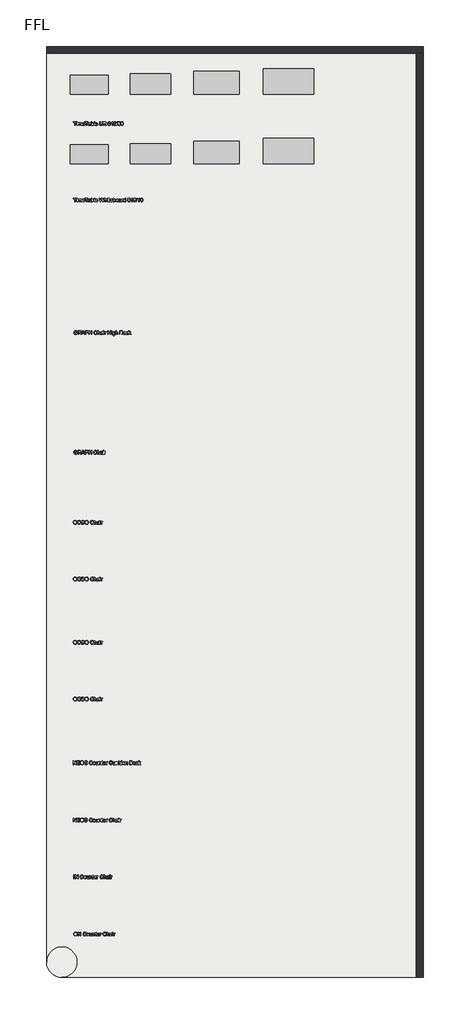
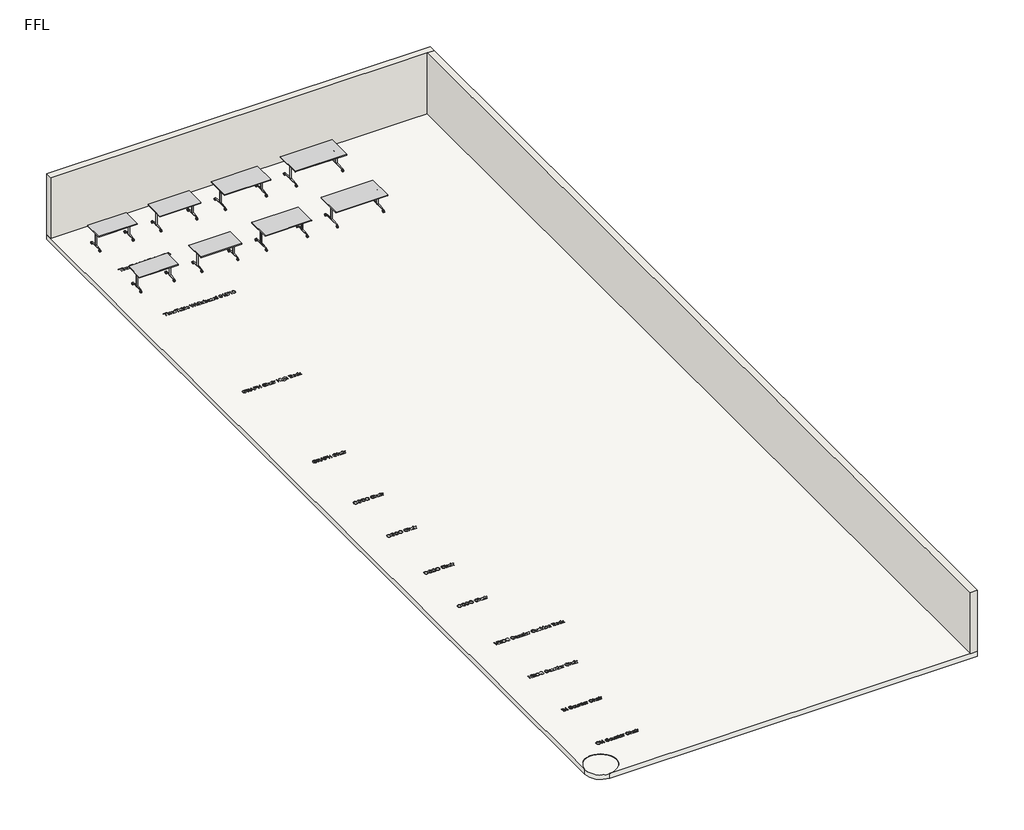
# One storey, part 1 of 5: 8 furniture elements, 2 proxies, 2 walls, 1 slab.
"""IFC4 building model written with IfcOpenShell, lengths in millimetres."""

from ifc_helpers import new_model, si_unit, frame, origin, origin_with_axes, place, context, project, spatial, polyline, circle_curve, outline, extrude, faceted_brep, transform, mapped, element, save
from ifc_brep_helpers import plane_surface, cylinder_surface, revolved_surface, advanced_brep
from components import furniture_0f136f00, furniture_efb72d9c, furniture_45383b6d, furniture_21161f99, furniture_9defe6de, furniture_b4830623, furniture_c1721f13, furniture_87d375f2, furniture_e5408bf0, furniture_d98f3108, furniture_42c79fa8, furniture_ac27c87f

model = new_model("IFC4")

# Units and contexts
model_context = context("Model", 3, world=origin())
ifc_project = project(units=[si_unit("LENGTHUNIT", "METRE", prefix="MILLI")], contexts=[model_context])

# Site, building, storey
site = spatial("IfcSite", under=ifc_project)
building = spatial("IfcBuilding", under=site)
storey = spatial("IfcBuildingStorey", under=building, Name="FFL", Elevation=0.0)

# Proxies
placement = place(None, origin())
element("IfcBuildingElementProxy", 1, Name="150mm Arial", ObjectType="150mm Arial", at=placement, inside=storey, context=model_context, shape_type="SweptSolid", body=[
    extrude(outline(polyline([(-19187.8255677, 6794.8567607), (-19182.9036927, 6827.5160155), (-19168.1380677, 6852.2245491), (-19145.5929955, 6867.7744289), (-19117.3327792, 6872.9577222), (-19097.960784, 6870.523828), (-19080.5899907, 6863.2221453), (-19066.1669138, 6851.5664963), (-19055.6380677, 6836.070703), (-19049.2017696, 6817.4829626), (-19047.0563369, 6796.5514722), (-19049.3144499, 6775.3405347), (-19056.0887888, 6756.4913761), (-19067.0052552, 6740.9685395), (-19081.6897503, 6729.7365684), (-19098.9118056, 6722.9216645), (-19117.4409523, 6720.6500299), (-19137.1104234, 6723.1605467), (-19154.5803753, 6730.6920972), (-19168.9673946, 6742.5640924), (-19179.3880677, 6758.0959434), (-19185.7161927, 6775.9670371), (-19187.8255677, 6794.8567607)]), holes=[polyline([(-19169.3640292, 6794.6764722), (-19165.6726229, 6771.5725059), (-19154.5984042, 6753.9673376), (-19137.953272, 6742.8255107), (-19117.5491253, 6739.1115684), (-19096.8475027, 6742.8615684), (-19080.1753273, 6754.1115684), (-19069.1822383, 6772.257602), (-19065.5178753, 6796.695703), (-19067.086385, 6813.038852), (-19071.7919138, 6827.164453), (-19079.5127672, 6838.7164362), (-19090.1272503, 6847.3387318), (-19102.9322383, 6852.7068208), (-19117.2246061, 6854.4961838), (-19137.0833802, 6851.0481669), (-19153.9673946, 6840.7041164), (-19165.5148705, 6822.3011717), (-19169.3640292, 6794.6764722)])]), origin_with_axes(), (0.0, 0.0, 1.0), 5.0),
    extrude(outline(polyline([(-19021.6717215, 6722.9577222), (-19021.6717215, 6870.6500299), (-19001.9121061, 6870.6500299), (-18924.7486446, 6753.6428184), (-18924.7486446, 6870.6500299), (-18906.2871061, 6870.6500299), (-18906.2871061, 6722.9577222), (-18926.0467215, 6722.9577222), (-19003.210183, 6840.0009914), (-19003.210183, 6722.9577222), (-19021.6717215, 6722.9577222)])), origin_with_axes(), (0.0, 0.0, 1.0), 5.0),
    extrude(outline(polyline([(-18712.4409523, 6775.4577222), (-18693.9794138, 6770.6981068), (-18702.4980436, 6749.1851862), (-18715.866433, 6733.4685395), (-18733.4265292, 6723.8546573), (-18754.5202792, 6720.6500299), (-18775.9340412, 6723.0749097), (-18792.9397503, 6730.3495491), (-18805.9746061, 6742.2215443), (-18815.475808, 6758.4384914), (-18821.2765893, 6777.5039963), (-18823.210183, 6797.9216645), (-18821.0241854, 6819.4571213), (-18814.4661927, 6838.0538761), (-18803.8787527, 6853.1214842), (-18789.6044138, 6864.0695011), (-18772.6753273, 6870.7356669), (-18754.1236446, 6872.9577222), (-18733.8817576, 6870.0821213), (-18717.1464811, 6861.4553184), (-18704.4406518, 6847.6091645), (-18696.2871061, 6829.0755107), (-18714.7486446, 6824.6764722), (-18721.148885, 6838.1395131), (-18729.8928753, 6847.3747895), (-18741.0887888, 6852.7158352), (-18754.8447984, 6854.4961838), (-18770.7011686, 6852.5220251), (-18783.72701, 6846.5995491), (-18793.6113249, 6837.3507511), (-18800.0431157, 6825.3976261), (-18804.7486446, 6797.9577222), (-18799.1777311, 6766.1548376), (-18792.0563369, 6754.2783352), (-18781.8339811, 6745.836328), (-18769.5788729, 6740.7927583), (-18756.3592215, 6739.1115684), (-18740.9490652, 6741.4012318), (-18728.1080196, 6748.2702222), (-18718.4130076, 6759.6464241), (-18712.4409523, 6775.4577222)])), origin_with_axes(), (0.0, 0.0, 1.0), 5.0),
    extrude(outline(polyline([(-18675.5178753, 6777.1884914), (-18671.5244859, 6803.3393328), (-18659.5443177, 6821.7197414), (-18644.742635, 6830.7251501), (-18627.0202792, 6833.726953), (-18607.6257479, 6830.0716044), (-18592.1344619, 6819.1055588), (-18581.9797143, 6801.6942006), (-18578.5947984, 6778.7029145), (-18580.0911927, 6760.0520732), (-18584.5803753, 6745.8543568), (-18591.9316374, 6735.2218448), (-18602.0142696, 6727.2666164), (-18613.9899306, 6722.3041765), (-18627.0202792, 6720.6500299), (-18646.6491854, 6724.2918568), (-18662.1224427, 6735.2173376), (-18672.1690172, 6752.9937799), (-18675.5178753, 6777.1884914)]), holes=[polyline([(-18657.0563369, 6777.2245491), (-18654.9199186, 6760.516316), (-18648.5106638, 6748.6127703), (-18638.8652311, 6741.4868689), (-18627.0202792, 6739.1115684), (-18615.2294138, 6741.5003905), (-18605.60201, 6748.6668568), (-18599.1927552, 6760.7281549), (-18597.0563369, 6777.8014722), (-18599.2062768, 6794.0229265), (-18605.6560965, 6805.7642126), (-18615.297022, 6812.890114), (-18627.0202792, 6815.2654145), (-18638.8652311, 6812.8991285), (-18648.5106638, 6805.8002703), (-18654.9199186, 6793.9237679), (-18657.0563369, 6777.2245491)])]), origin_with_axes(), (0.0, 0.0, 1.0), 5.0),
    extrude(outline(polyline([(-18488.5947984, 6722.9577222), (-18488.5947984, 6741.5995491), (-18503.053933, 6725.8874097), (-18521.9121061, 6720.6500299), (-18539.273885, 6724.3279145), (-18551.2450388, 6733.5586838), (-18556.7438369, 6747.1524338), (-18557.8255677, 6764.3158953), (-18557.8255677, 6831.4192607), (-18539.3640292, 6831.4192607), (-18539.3640292, 6773.0057991), (-18538.2462407, 6754.1836838), (-18530.944558, 6743.1320011), (-18517.1885484, 6739.1115684), (-18501.773885, 6743.2221453), (-18491.5875869, 6754.4180588), (-18488.5947984, 6774.9889722), (-18488.5947984, 6831.4192607), (-18470.13326, 6831.4192607), (-18470.13326, 6722.9577222), (-18488.5947984, 6722.9577222)])), origin_with_axes(), (0.0, 0.0, 1.0), 5.0),
    extrude(outline(polyline([(-18444.7486446, 6722.9577222), (-18444.7486446, 6831.4192607), (-18426.2871061, 6831.4192607), (-18426.2871061, 6816.2750299), (-18412.1705196, 6829.3639722), (-18392.897683, 6833.726953), (-18375.4637888, 6830.211328), (-18363.5647503, 6820.9805588), (-18358.0298946, 6807.4048376), (-18357.0563369, 6789.5562799), (-18357.0563369, 6722.9577222), (-18375.5178753, 6722.9577222), (-18375.5178753, 6787.0682991), (-18377.6452792, 6803.4024338), (-18385.163308, 6812.0382511), (-18397.8375869, 6815.2654145), (-18408.6503874, 6813.4535155), (-18417.867635, 6808.0178184), (-18424.1822383, 6797.5160155), (-18426.2871061, 6780.5057991), (-18426.2871061, 6722.9577222), (-18444.7486446, 6722.9577222)])), origin_with_axes(), (0.0, 0.0, 1.0), 5.0),
    extrude(outline(polyline([(-18292.4409523, 6738.3543568), (-18290.13326, 6722.4168568), (-18303.9433561, 6720.6500299), (-18319.4121061, 6723.7149338), (-18327.1284523, 6731.7557991), (-18329.3640292, 6752.7053184), (-18329.3640292, 6812.9577222), (-18343.210183, 6812.9577222), (-18343.210183, 6831.4192607), (-18329.3640292, 6831.4192607), (-18329.3640292, 6857.7774338), (-18310.9024907, 6868.6307991), (-18310.9024907, 6831.4192607), (-18292.4409523, 6831.4192607), (-18292.4409523, 6812.9577222), (-18310.9024907, 6812.9577222), (-18310.9024907, 6753.2461838), (-18309.928933, 6743.726953), (-18306.773885, 6740.3555588), (-18300.4818177, 6739.1115684), (-18292.4409523, 6738.3543568)])), origin_with_axes(), (0.0, 0.0, 1.0), 5.0),
    extrude(outline(polyline([(-18198.0419138, 6755.2654145), (-18179.9409523, 6752.9577222), (-18186.4628874, 6739.3189001), (-18196.8700388, 6729.1235876), (-18210.9280316, 6722.7684193), (-18228.4024907, 6720.6500299), (-18250.0641494, 6724.3053785), (-18266.7318177, 6735.2714241), (-18277.3598225, 6752.8360275), (-18280.9024907, 6776.2870491), (-18277.3237648, 6800.5268328), (-18266.5875869, 6818.6548376), (-18250.1452792, 6829.9589241), (-18229.4481638, 6833.726953), (-18209.3955797, 6829.9679386), (-18193.3724427, 6818.6908953), (-18182.8661326, 6800.5989482), (-18179.3640292, 6776.3952222), (-18179.4722023, 6771.4192607), (-18262.4409523, 6771.4192607), (-18259.2453393, 6757.6001501), (-18251.8219619, 6747.4408953), (-18241.1083201, 6741.1939001), (-18228.0419138, 6739.1115684), (-18209.9409523, 6742.9697414), (-18198.0419138, 6755.2654145)]), holes=[polyline([(-18262.4409523, 6789.8807991), (-18197.8255677, 6789.8807991), (-18200.3225628, 6799.6344049), (-18205.2173946, 6806.6115684), (-18215.9806157, 6813.101953), (-18229.5202792, 6815.2654145), (-18241.9646902, 6813.5391525), (-18252.2546542, 6808.3603664), (-18259.4075989, 6800.2879506), (-18262.4409523, 6789.8807991)])]), origin_with_axes(), (0.0, 0.0, 1.0), 5.0),
    extrude(outline(polyline([(-18160.9024907, 6722.9577222), (-18160.9024907, 6831.4192607), (-18144.7486446, 6831.4192607), (-18144.7486446, 6815.3735876), (-18133.2822984, 6830.1572414), (-18121.7438369, 6833.726953), (-18103.210183, 6828.0298376), (-18109.3760484, 6811.4793568), (-18122.3568177, 6815.2654145), (-18132.7955196, 6811.6235876), (-18139.4481638, 6801.5274338), (-18142.4409523, 6779.9649338), (-18142.4409523, 6722.9577222), (-18160.9024907, 6722.9577222)])), origin_with_axes(), (0.0, 0.0, 1.0), 5.0),
    extrude(outline(polyline([(-17927.8255677, 6775.4577222), (-17909.3640292, 6770.6981068), (-17917.882659, 6749.1851862), (-17931.2510484, 6733.4685395), (-17948.8111446, 6723.8546573), (-17969.9048946, 6720.6500299), (-17991.3186566, 6723.0749097), (-18008.3243657, 6730.3495491), (-18021.3592215, 6742.2215443), (-18030.8604234, 6758.4384914), (-18036.6612047, 6777.5039963), (-18038.5947984, 6797.9216645), (-18036.4088008, 6819.4571213), (-18029.850808, 6838.0538761), (-18019.2633681, 6853.1214842), (-18004.9890292, 6864.0695011), (-17988.0599427, 6870.7356669), (-17969.50826, 6872.9577222), (-17949.2663729, 6870.0821213), (-17932.5310965, 6861.4553184), (-17919.8252672, 6847.6091645), (-17911.6717215, 6829.0755107), (-17930.13326, 6824.6764722), (-17936.5335003, 6838.1395131), (-17945.2774907, 6847.3747895), (-17956.4734042, 6852.7158352), (-17970.2294138, 6854.4961838), (-17986.085784, 6852.5220251), (-17999.1116253, 6846.5995491), (-18008.9959402, 6837.3507511), (-18015.4277311, 6825.3976261), (-18020.13326, 6797.9577222), (-18014.5623465, 6766.1548376), (-18007.4409523, 6754.2783352), (-17997.2185965, 6745.836328), (-17984.9634883, 6740.7927583), (-17971.7438369, 6739.1115684), (-17956.3336806, 6741.4012318), (-17943.492635, 6748.2702222), (-17933.7976229, 6759.6464241), (-17927.8255677, 6775.4577222)])), origin_with_axes(), (0.0, 0.0, 1.0), 5.0),
    extrude(outline(polyline([(-17886.2871061, 6722.9577222), (-17886.2871061, 6870.6500299), (-17867.8255677, 6870.6500299), (-17867.8255677, 6816.3471453), (-17853.429534, 6829.3820011), (-17835.6981638, 6833.726953), (-17814.9649907, 6828.9853664), (-17802.3808561, 6815.8783953), (-17798.5947984, 6791.6115684), (-17798.5947984, 6722.9577222), (-17817.0563369, 6722.9577222), (-17817.0563369, 6789.7005107), (-17818.5256878, 6801.2570011), (-17822.9337407, 6809.1716645), (-17830.0371061, 6813.741977), (-17839.5923946, 6815.2654145), (-17854.7185965, 6811.1548376), (-17864.8147503, 6800.0130107), (-17867.8255677, 6780.5779145), (-17867.8255677, 6722.9577222), (-17886.2871061, 6722.9577222)])), origin_with_axes(), (0.0, 0.0, 1.0), 5.0),
    extrude(outline(polyline([(-17703.9794138, 6736.8038761), (-17721.882058, 6724.2918568), (-17741.6597023, 6720.6500299), (-17757.0878874, 6722.8405347), (-17768.4685965, 6729.4120491), (-17775.4863249, 6739.3910155), (-17777.8255677, 6751.8038761), (-17774.2919138, 6766.4072414), (-17765.007058, 6777.008203), (-17752.0803753, 6783.0658953), (-17736.1068177, 6785.8423376), (-17704.0875869, 6792.1884914), (-17703.9794138, 6796.2990684), (-17705.2504475, 6804.5382511), (-17709.0635484, 6809.9288761), (-17717.5911927, 6813.9312799), (-17729.4722023, 6815.2654145), (-17748.1500869, 6811.7137318), (-17757.0563369, 6799.1115684), (-17775.5178753, 6801.4192607), (-17767.5310965, 6819.4481068), (-17751.4493657, 6830.0130107), (-17727.0923946, 6833.726953), (-17704.7185965, 6830.445703), (-17692.0803753, 6822.2065203), (-17686.4193177, 6809.6764722), (-17685.5178753, 6793.5226261), (-17685.5178753, 6770.5538761), (-17684.5803753, 6738.4805588), (-17680.9024907, 6722.9577222), (-17699.3640292, 6722.9577222), (-17703.9794138, 6736.8038761)]), holes=[polyline([(-17703.9794138, 6773.726953), (-17733.7630677, 6768.0658953), (-17749.6464811, 6765.0731068), (-17756.8399907, 6760.2053184), (-17759.3640292, 6753.101953), (-17753.8652311, 6743.1139722), (-17737.7294138, 6739.1115684), (-17719.0515292, 6743.5286357), (-17707.00826, 6754.2197414), (-17704.0875869, 6768.4985876), (-17703.9794138, 6773.726953)])]), origin_with_axes(), (0.0, 0.0, 1.0), 5.0),
    extrude(outline(polyline([(-17660.13326, 6722.9577222), (-17660.13326, 6831.4192607), (-17641.6717215, 6831.4192607), (-17641.6717215, 6722.9577222), (-17660.13326, 6722.9577222)])), origin_with_axes(), (0.0, 0.0, 1.0), 5.0),
    extrude(outline(polyline([(-17660.13326, 6852.1884914), (-17660.13326, 6870.6500299), (-17641.6717215, 6870.6500299), (-17641.6717215, 6852.1884914), (-17660.13326, 6852.1884914)])), origin_with_axes(), (0.0, 0.0, 1.0), 5.0),
    extrude(outline(polyline([(-17613.9794138, 6722.9577222), (-17613.9794138, 6831.4192607), (-17597.8255677, 6831.4192607), (-17597.8255677, 6815.3735876), (-17586.3592215, 6830.1572414), (-17574.82076, 6833.726953), (-17556.2871061, 6828.0298376), (-17562.4529715, 6811.4793568), (-17575.4337407, 6815.2654145), (-17585.8724427, 6811.6235876), (-17592.5250869, 6801.5274338), (-17595.5178753, 6779.9649338), (-17595.5178753, 6722.9577222), (-17613.9794138, 6722.9577222)])), origin_with_axes(), (0.0, 0.0, 1.0), 5.0),
])
element("IfcBuildingElementProxy", 2, Name="150mm Arial", ObjectType="150mm Arial", at=placement, inside=storey, context=model_context, shape_type="SweptSolid", body=[
    extrude(outline(polyline([(-19189.3644542, 8983.1799011), (-19189.3644542, 9130.8722088), (-19170.9029157, 9130.8722088), (-19170.9029157, 8983.1799011), (-19189.3644542, 8983.1799011)])), origin_with_axes(), (0.0, 0.0, 1.0), 5.0),
    extrude(outline(polyline([(-19133.9798388, 8983.1799011), (-19133.9798388, 9130.8722088), (-19114.2202234, 9130.8722088), (-19037.0567619, 9013.8649973), (-19037.0567619, 9130.8722088), (-19018.5952234, 9130.8722088), (-19018.5952234, 8983.1799011), (-19038.3548388, 8983.1799011), (-19115.5183003, 9100.2231704), (-19115.5183003, 8983.1799011), (-19133.9798388, 8983.1799011)])), origin_with_axes(), (0.0, 0.0, 1.0), 5.0),
    extrude(outline(polyline([(-18824.7490696, 9035.6799011), (-18806.2875311, 9030.9202857), (-18814.8061609, 9009.4073651), (-18828.1745503, 8993.6907184), (-18845.7346465, 8984.0768362), (-18866.8283965, 8980.8722088), (-18888.2421585, 8983.2970886), (-18905.2478677, 8990.5717281), (-18918.2827234, 9002.4437232), (-18927.7839253, 9018.6606704), (-18933.5847066, 9037.7261752), (-18935.5183003, 9058.1438434), (-18933.3323028, 9079.6793002), (-18926.77431, 9098.276055), (-18916.1868701, 9113.3436632), (-18901.9125311, 9124.29168), (-18884.9834446, 9130.9578458), (-18866.4317619, 9133.1799011), (-18846.1898749, 9130.3043002), (-18829.4545984, 9121.6774973), (-18816.7487691, 9107.8313434), (-18808.5952234, 9089.2976896), (-18827.0567619, 9084.8986511), (-18833.4570023, 9098.361692), (-18842.2009927, 9107.5969684), (-18853.3969061, 9112.9380141), (-18867.1529157, 9114.7183627), (-18883.0092859, 9112.744204), (-18896.0351273, 9106.8217281), (-18905.9194422, 9097.57293), (-18912.351233, 9085.619805), (-18917.0567619, 9058.1799011), (-18911.4858484, 9026.3770165), (-18904.3644542, 9014.5005141), (-18894.1420984, 9006.0585069), (-18881.8869903, 9001.0149372), (-18868.6673388, 8999.3337473), (-18853.2571826, 9001.6234107), (-18840.4161369, 9008.4924011), (-18830.7211249, 9019.8686031), (-18824.7490696, 9035.6799011)])), origin_with_axes(), (0.0, 0.0, 1.0), 5.0),
    extrude(outline(polyline([(-18787.8259927, 9037.4106704), (-18783.8326032, 9063.5615117), (-18771.852435, 9081.9419204), (-18757.0507523, 9090.947329), (-18739.3283965, 9093.9491319), (-18719.9338653, 9090.2937833), (-18704.4425792, 9079.3277377), (-18694.2878316, 9061.9163795), (-18690.9029157, 9038.9250934), (-18692.39931, 9020.2742521), (-18696.8884927, 9006.0765357), (-18704.2397547, 8995.4440237), (-18714.3223869, 8987.4887954), (-18726.2980479, 8982.5263555), (-18739.3283965, 8980.8722088), (-18758.9573028, 8984.5140357), (-18774.43056, 8995.4395165), (-18784.4771345, 9013.2159588), (-18787.8259927, 9037.4106704)]), holes=[polyline([(-18769.3644542, 9037.4467281), (-18767.2280359, 9020.7384949), (-18760.8187811, 9008.8349492), (-18751.1733484, 9001.7090478), (-18739.3283965, 8999.3337473), (-18727.5375311, 9001.7225694), (-18717.9101273, 9008.8890357), (-18711.5008725, 9020.9503338), (-18709.3644542, 9038.0236511), (-18711.5143941, 9054.2451055), (-18717.9642138, 9065.9863915), (-18727.6051393, 9073.112293), (-18739.3283965, 9075.4875934), (-18751.1733484, 9073.1213074), (-18760.8187811, 9066.0224492), (-18767.2280359, 9054.1459468), (-18769.3644542, 9037.4467281)])]), origin_with_axes(), (0.0, 0.0, 1.0), 5.0),
    extrude(outline(polyline([(-18600.9029157, 8983.1799011), (-18600.9029157, 9001.8217281), (-18615.3620503, 8986.1095886), (-18634.2202234, 8980.8722088), (-18651.5820023, 8984.5500934), (-18663.5531561, 8993.7808627), (-18669.0519542, 9007.3746127), (-18670.133685, 9024.5380742), (-18670.133685, 9091.6414396), (-18651.6721465, 9091.6414396), (-18651.6721465, 9033.2279781), (-18650.554358, 9014.4058627), (-18643.2526753, 9003.35418), (-18629.4966657, 8999.3337473), (-18614.0820023, 9003.4443242), (-18603.8957042, 9014.6402377), (-18600.9029157, 9035.2111511), (-18600.9029157, 9091.6414396), (-18582.4413773, 9091.6414396), (-18582.4413773, 8983.1799011), (-18600.9029157, 8983.1799011)])), origin_with_axes(), (0.0, 0.0, 1.0), 5.0),
    extrude(outline(polyline([(-18557.0567619, 8983.1799011), (-18557.0567619, 9091.6414396), (-18538.5952234, 9091.6414396), (-18538.5952234, 9076.4972088), (-18524.4786369, 9089.5861511), (-18505.2058003, 9093.9491319), (-18487.7719061, 9090.4335069), (-18475.8728677, 9081.2027377), (-18470.3380119, 9067.6270165), (-18469.3644542, 9049.7784588), (-18469.3644542, 8983.1799011), (-18487.8259927, 8983.1799011), (-18487.8259927, 9047.2904781), (-18489.9533965, 9063.6246127), (-18497.4714253, 9072.26043), (-18510.1457042, 9075.4875934), (-18520.9585047, 9073.6756944), (-18530.1757523, 9068.2399973), (-18536.4903556, 9057.7381944), (-18538.5952234, 9040.7279781), (-18538.5952234, 8983.1799011), (-18557.0567619, 8983.1799011)])), origin_with_axes(), (0.0, 0.0, 1.0), 5.0),
    extrude(outline(polyline([(-18404.7490696, 8998.5765357), (-18402.4413773, 8982.6390357), (-18416.2514734, 8980.8722088), (-18431.7202234, 8983.9371127), (-18439.4365696, 8991.9779781), (-18441.6721465, 9012.9274973), (-18441.6721465, 9073.1799011), (-18455.5183003, 9073.1799011), (-18455.5183003, 9091.6414396), (-18441.6721465, 9091.6414396), (-18441.6721465, 9117.9996127), (-18423.210608, 9128.8529781), (-18423.210608, 9091.6414396), (-18404.7490696, 9091.6414396), (-18404.7490696, 9073.1799011), (-18423.210608, 9073.1799011), (-18423.210608, 9013.4683627), (-18422.2370503, 9003.9491319), (-18419.0820023, 9000.5777377), (-18412.789935, 8999.3337473), (-18404.7490696, 8998.5765357)])), origin_with_axes(), (0.0, 0.0, 1.0), 5.0),
    extrude(outline(polyline([(-18310.3500311, 9015.4875934), (-18292.2490696, 9013.1799011), (-18298.7710047, 8999.541079), (-18309.1781561, 8989.3457665), (-18323.2361489, 8982.9905982), (-18340.710608, 8980.8722088), (-18362.3722667, 8984.5275574), (-18379.039935, 8995.4936031), (-18389.6679398, 9013.0582064), (-18393.210608, 9036.5092281), (-18389.6318821, 9060.7490117), (-18378.8957042, 9078.8770165), (-18362.4533965, 9090.1811031), (-18341.7562811, 9093.9491319), (-18321.703697, 9090.1901175), (-18305.68056, 9078.9130742), (-18295.1742499, 9060.8211271), (-18291.6721465, 9036.6174011), (-18291.7803196, 9031.6414396), (-18374.7490696, 9031.6414396), (-18371.5534566, 9017.822329), (-18364.1300792, 9007.6630742), (-18353.4164374, 9001.416079), (-18340.3500311, 8999.3337473), (-18322.2490696, 9003.1919204), (-18310.3500311, 9015.4875934)]), holes=[polyline([(-18374.7490696, 9050.1029781), (-18310.133685, 9050.1029781), (-18312.6306802, 9059.8565838), (-18317.5255119, 9066.8337473), (-18328.288733, 9073.3241319), (-18341.8283965, 9075.4875934), (-18354.2728076, 9073.7613314), (-18364.5627715, 9068.5825454), (-18371.7157162, 9060.5101295), (-18374.7490696, 9050.1029781)])]), origin_with_axes(), (0.0, 0.0, 1.0), 5.0),
    extrude(outline(polyline([(-18273.210608, 8983.1799011), (-18273.210608, 9091.6414396), (-18257.0567619, 9091.6414396), (-18257.0567619, 9075.5957665), (-18245.5904157, 9090.3794204), (-18234.0519542, 9093.9491319), (-18215.5183003, 9088.2520165), (-18221.6841657, 9071.7015357), (-18234.664935, 9075.4875934), (-18245.1036369, 9071.8457665), (-18251.7562811, 9061.7496127), (-18254.7490696, 9040.1871127), (-18254.7490696, 8983.1799011), (-18273.210608, 8983.1799011)])), origin_with_axes(), (0.0, 0.0, 1.0), 5.0),
    extrude(outline(polyline([(-18040.133685, 9035.6799011), (-18021.6721465, 9030.9202857), (-18030.1907763, 9009.4073651), (-18043.5591657, 8993.6907184), (-18061.1192619, 8984.0768362), (-18082.2130119, 8980.8722088), (-18103.6267739, 8983.2970886), (-18120.632483, 8990.5717281), (-18133.6673388, 9002.4437232), (-18143.1685407, 9018.6606704), (-18148.969322, 9037.7261752), (-18150.9029157, 9058.1438434), (-18148.7169181, 9079.6793002), (-18142.1589253, 9098.276055), (-18131.5714854, 9113.3436632), (-18117.2971465, 9124.29168), (-18100.36806, 9130.9578458), (-18081.8163773, 9133.1799011), (-18061.5744903, 9130.3043002), (-18044.8392138, 9121.6774973), (-18032.1333845, 9107.8313434), (-18023.9798388, 9089.2976896), (-18042.4413773, 9084.8986511), (-18048.8416177, 9098.361692), (-18057.585608, 9107.5969684), (-18068.7815215, 9112.9380141), (-18082.5375311, 9114.7183627), (-18098.3939013, 9112.744204), (-18111.4197427, 9106.8217281), (-18121.3040576, 9097.57293), (-18127.7358484, 9085.619805), (-18132.4413773, 9058.1799011), (-18126.8704638, 9026.3770165), (-18119.7490696, 9014.5005141), (-18109.5267138, 9006.0585069), (-18097.2716056, 9001.0149372), (-18084.0519542, 8999.3337473), (-18068.6417979, 9001.6234107), (-18055.8007523, 9008.4924011), (-18046.1057403, 9019.8686031), (-18040.133685, 9035.6799011)])), origin_with_axes(), (0.0, 0.0, 1.0), 5.0),
    extrude(outline(polyline([(-17998.5952234, 8983.1799011), (-17998.5952234, 9130.8722088), (-17980.133685, 9130.8722088), (-17980.133685, 9076.5693242), (-17965.7376513, 9089.60418), (-17948.0062811, 9093.9491319), (-17927.273108, 9089.2075454), (-17914.6889734, 9076.1005742), (-17910.9029157, 9051.8337473), (-17910.9029157, 8983.1799011), (-17929.3644542, 8983.1799011), (-17929.3644542, 9049.9226896), (-17930.8338052, 9061.47918), (-17935.241858, 9069.3938434), (-17942.3452234, 9073.9641559), (-17951.9005119, 9075.4875934), (-17967.0267138, 9071.3770165), (-17977.1228677, 9060.2351896), (-17980.133685, 9040.8000934), (-17980.133685, 8983.1799011), (-17998.5952234, 8983.1799011)])), origin_with_axes(), (0.0, 0.0, 1.0), 5.0),
    extrude(outline(polyline([(-17816.2875311, 8997.026055), (-17834.1901753, 8984.5140357), (-17853.9678196, 8980.8722088), (-17869.3960047, 8983.0627136), (-17880.7767138, 8989.6342281), (-17887.7944422, 8999.6131944), (-17890.133685, 9012.026055), (-17886.6000311, 9026.6294204), (-17877.3151753, 9037.2303819), (-17864.3884927, 9043.2880742), (-17848.414935, 9046.0645165), (-17816.3957042, 9052.4106704), (-17816.2875311, 9056.5212473), (-17817.5585648, 9064.76043), (-17821.3716657, 9070.151055), (-17829.89931, 9074.1534588), (-17841.7803196, 9075.4875934), (-17860.4582042, 9071.9359107), (-17869.3644542, 9059.3337473), (-17887.8259927, 9061.6414396), (-17879.8392138, 9079.6702857), (-17863.757483, 9090.2351896), (-17839.4005119, 9093.9491319), (-17817.0267138, 9090.6678819), (-17804.3884927, 9082.4286992), (-17798.727435, 9069.8986511), (-17797.8259927, 9053.744805), (-17797.8259927, 9030.776055), (-17796.8884927, 8998.7027377), (-17793.210608, 8983.1799011), (-17811.6721465, 8983.1799011), (-17816.2875311, 8997.026055)]), holes=[polyline([(-17816.2875311, 9033.9491319), (-17846.071185, 9028.2880742), (-17861.9545984, 9025.2952857), (-17869.148108, 9020.4274973), (-17871.6721465, 9013.3241319), (-17866.1733484, 9003.3361511), (-17850.0375311, 8999.3337473), (-17831.3596465, 9003.7508146), (-17819.3163773, 9014.4419204), (-17816.3957042, 9028.7207665), (-17816.2875311, 9033.9491319)])]), origin_with_axes(), (0.0, 0.0, 1.0), 5.0),
    extrude(outline(polyline([(-17772.4413773, 8983.1799011), (-17772.4413773, 9091.6414396), (-17753.9798388, 9091.6414396), (-17753.9798388, 8983.1799011), (-17772.4413773, 8983.1799011)])), origin_with_axes(), (0.0, 0.0, 1.0), 5.0),
    extrude(outline(polyline([(-17772.4413773, 9112.4106704), (-17772.4413773, 9130.8722088), (-17753.9798388, 9130.8722088), (-17753.9798388, 9112.4106704), (-17772.4413773, 9112.4106704)])), origin_with_axes(), (0.0, 0.0, 1.0), 5.0),
    extrude(outline(polyline([(-17726.2875311, 8983.1799011), (-17726.2875311, 9091.6414396), (-17710.133685, 9091.6414396), (-17710.133685, 9075.5957665), (-17698.6673388, 9090.3794204), (-17687.1288773, 9093.9491319), (-17668.5952234, 9088.2520165), (-17674.7610888, 9071.7015357), (-17687.741858, 9075.4875934), (-17698.18056, 9071.8457665), (-17704.8332042, 9061.7496127), (-17707.8259927, 9040.1871127), (-17707.8259927, 8983.1799011), (-17726.2875311, 8983.1799011)])), origin_with_axes(), (0.0, 0.0, 1.0), 5.0),
])

# Furniture
furniture_shape = furniture_0f136f00(model_context)
furniture_2_shape = furniture_efb72d9c(model_context)
element("IfcFurniture", 3, ObjectType="Table_Foldable_Wilkhahn_TimetableLift : 1500w x 750d (615/00)", at=placement, inside=storey, context=model_context, shape_type="MappedRepresentation", body=[
    mapped(furniture_shape, transform((-18579.7352929, 40220.5036296, 0.0), x_axis=(1.0, 0.0, 0.0), y_axis=(0.0, 1.0, 0.0), z_axis=(0.0, 0.0, 1.0))),
    mapped(furniture_2_shape, transform((-18579.7352929, 40220.5036296, 0.0), x_axis=(1.0, 0.0, 0.0), y_axis=(0.0, 1.0, 0.0), z_axis=(0.0, 0.0, 1.0))),
])
furniture_3_shape = furniture_45383b6d(model_context)
furniture_4_shape = furniture_21161f99(model_context)
element("IfcFurniture", 4, ObjectType="Table_Foldable_Wilkhahn_TimetableLift : 1600w x 800d (615/00)", at=placement, inside=storey, context=model_context, shape_type="MappedRepresentation", body=[
    mapped(furniture_3_shape, transform((-16159.7352929, 40245.5036296, 0.0), x_axis=(1.0, 0.0, 0.0), y_axis=(0.0, 1.0, 0.0), z_axis=(0.0, 0.0, 1.0))),
    mapped(furniture_4_shape, transform((-16159.7352929, 40245.5036296, 0.0), x_axis=(1.0, 0.0, 0.0), y_axis=(0.0, 1.0, 0.0), z_axis=(0.0, 0.0, 1.0))),
])
furniture_5_shape = furniture_9defe6de(model_context)
furniture_6_shape = furniture_b4830623(model_context)
element("IfcFurniture", 5, ObjectType="Table_Foldable_Wilkhahn_TimetableLift : 1800w x 900d (615/00)", at=placement, inside=storey, context=model_context, shape_type="MappedRepresentation", body=[
    mapped(furniture_5_shape, transform((-13559.7352929, 40295.5036296, 0.0), x_axis=(1.0, 0.0, 0.0), y_axis=(0.0, 1.0, 0.0), z_axis=(0.0, 0.0, 1.0))),
    mapped(furniture_6_shape, transform((-13559.7352929, 40295.5036296, 0.0), x_axis=(1.0, 0.0, 0.0), y_axis=(0.0, 1.0, 0.0), z_axis=(0.0, 0.0, 1.0))),
])
furniture_7_shape = furniture_c1721f13(model_context)
furniture_8_shape = furniture_87d375f2(model_context)
element("IfcFurniture", 6, ObjectType="Table_Foldable_Wilkhahn_TimetableLift : 2000w x 1000d (615/00)", at=placement, inside=storey, context=model_context, shape_type="MappedRepresentation", body=[
    mapped(furniture_7_shape, transform((-10709.7352929, 40345.5036296, 0.0), x_axis=(1.0, 0.0, 0.0), y_axis=(0.0, 1.0, 0.0), z_axis=(0.0, 0.0, 1.0))),
    mapped(furniture_8_shape, transform((-10709.7352929, 40345.5036296, 0.0), x_axis=(1.0, 0.0, 0.0), y_axis=(0.0, 1.0, 0.0), z_axis=(0.0, 0.0, 1.0))),
])
furniture_9_shape = furniture_e5408bf0(model_context)
element("IfcFurniture", 7, ObjectType="Table_Foldable_Wilkhahn_TimetableLift_Whiteboard : 1500w x 750d (615/10)", at=placement, inside=storey, context=model_context, shape_type="MappedRepresentation", body=[
    mapped(furniture_shape, transform((-18579.7352929, 37470.5036296, 0.0), x_axis=(1.0, 0.0, 0.0), y_axis=(0.0, 1.0, 0.0), z_axis=(0.0, 0.0, 1.0))),
    mapped(furniture_9_shape, transform((-18579.7352929, 37470.5036296, 0.0), x_axis=(1.0, 0.0, 0.0), y_axis=(0.0, 1.0, 0.0), z_axis=(0.0, 0.0, 1.0))),
])
furniture_10_shape = furniture_d98f3108(model_context)
element("IfcFurniture", 8, ObjectType="Table_Foldable_Wilkhahn_TimetableLift_Whiteboard : 1600w x 800d (615/10)", at=placement, inside=storey, context=model_context, shape_type="MappedRepresentation", body=[
    mapped(furniture_3_shape, transform((-16159.7352929, 37495.5036296, 0.0), x_axis=(1.0, 0.0, 0.0), y_axis=(0.0, 1.0, 0.0), z_axis=(0.0, 0.0, 1.0))),
    mapped(furniture_10_shape, transform((-16159.7352929, 37495.5036296, 0.0), x_axis=(1.0, 0.0, 0.0), y_axis=(0.0, 1.0, 0.0), z_axis=(0.0, 0.0, 1.0))),
])
furniture_11_shape = furniture_42c79fa8(model_context)
element("IfcFurniture", 9, ObjectType="Table_Foldable_Wilkhahn_TimetableLift_Whiteboard : 1800w x 900d (615/10)", at=placement, inside=storey, context=model_context, shape_type="MappedRepresentation", body=[
    mapped(furniture_5_shape, transform((-13559.7352929, 37545.5036296, 0.0), x_axis=(1.0, 0.0, 0.0), y_axis=(0.0, 1.0, 0.0), z_axis=(0.0, 0.0, 1.0))),
    mapped(furniture_11_shape, transform((-13559.7352929, 37545.5036296, 0.0), x_axis=(1.0, 0.0, 0.0), y_axis=(0.0, 1.0, 0.0), z_axis=(0.0, 0.0, 1.0))),
])
furniture_12_shape = furniture_ac27c87f(model_context)
element("IfcFurniture", 10, ObjectType="Table_Foldable_Wilkhahn_TimetableLift_Whiteboard : 2000w x 1000d (615/10)", at=placement, inside=storey, context=model_context, shape_type="MappedRepresentation", body=[
    mapped(furniture_7_shape, transform((-10709.7352929, 37595.5036296, 0.0), x_axis=(1.0, 0.0, 0.0), y_axis=(0.0, 1.0, 0.0), z_axis=(0.0, 0.0, 1.0))),
    mapped(furniture_12_shape, transform((-10709.7352929, 37595.5036296, 0.0), x_axis=(1.0, 0.0, 0.0), y_axis=(0.0, 1.0, 0.0), z_axis=(0.0, 0.0, 1.0))),
])

# Slab
element("IfcSlab", 11, ObjectType="Generic 200mm", at=placement, inside=storey, context=model_context, shape_type="AdvancedBrep", body=[
    advanced_brep(
    [(-5395.7352929, 41853.2393304, -200.0), (-5395.7352929, 5083.2393304, -200.0), (-19657.6113558, 5083.2393304, -200.0), (-20265.7352929, 5691.3632675, -200.0), (-20265.7352929, 41853.2393304, -200.0), (-5395.7352929, 5083.2393304, 0.0), (-5395.7352929, 41853.2393304, 0.0), (-20265.7352929, 41853.2393304, 0.0), (-20265.7352929, 5691.3632675, 0.0), (-19049.4874187, 5691.3632675, 0.0), (-19657.6113558, 5083.2393304, 0.0), (-19657.6113558, 5083.2393304, -20.0), (-20265.7352929, 5691.3632675, -20.0), (-19049.4874187, 5691.3632675, -20.0)],
    [
        (0, 1),
        (1, 2),
        (2, 3, circle_curve(frame((-19657.6113558, 5691.3632675, -200.0), z_axis=(0.0, 0.0, -1.0), x_axis=(1.0, 0.0, 0.0)), 608.1239371)),
        (3, 4),
        (4, 0),
        (5, 6),
        (6, 7),
        (7, 8),
        (8, 9, circle_curve(frame((-19657.6113558, 5691.3632675, 0.0), z_axis=(0.0, 0.0, -1.0), x_axis=(1.0, 0.0, 0.0)), 608.1239371)),
        (9, 10, circle_curve(frame((-19657.6113558, 5691.3632675, 0.0), z_axis=(0.0, 0.0, -1.0), x_axis=(1.0, 0.0, 0.0)), 608.1239371)),
        (10, 5),
        (0, 6),
        (5, 1),
        (10, 11),
        (11, 2),
        (3, 12),
        (12, 8),
        (7, 4),
        (11, 12, circle_curve(frame((-19657.6113558, 5691.3632675, -20.0), z_axis=(0.0, 0.0, -1.0), x_axis=(1.0, 0.0, 0.0)), 608.1239371)),
        (13, 12, circle_curve(frame((-19657.6113558, 5691.3632675, -20.0), z_axis=(0.0, 0.0, 1.0), x_axis=(1.0, 0.0, 0.0)), 608.1239371)),
        (11, 13, circle_curve(frame((-19657.6113558, 5691.3632675, -20.0), z_axis=(0.0, 0.0, 1.0), x_axis=(1.0, 0.0, 0.0)), 608.1239371)),
        (9, 13),
    ],
    [
        plane_surface(frame((-5395.7352929, 41853.2393304, -200.0), z_axis=(0.0, 0.0, -1.0), x_axis=(0.0, -1.0, 0.0))),
        plane_surface(frame((-5395.7352929, 41853.2393304, 0.0), z_axis=(0.0, 0.0, 1.0), x_axis=(0.0, 1.0, 0.0))),
        plane_surface(frame((-5395.7352929, 41853.2393304, -200.0), z_axis=(1.0, 0.0, 0.0), x_axis=(0.0, 0.0, 1.0))),
        plane_surface(frame((-5395.7352929, 5083.2393304, -200.0), z_axis=(0.0, -1.0, 0.0), x_axis=(0.0, 0.0, 1.0))),
        plane_surface(frame((-20265.7352929, 5691.3632675, -200.0), z_axis=(-1.0, 0.0, 0.0), x_axis=(0.0, 0.0, 1.0))),
        plane_surface(frame((-20265.7352929, 41853.2393304, -200.0), z_axis=(0.0, 1.0, 0.0), x_axis=(0.0, 0.0, 1.0))),
        cylinder_surface(frame((-19657.6113558, 5691.3632675, 0.0), z_axis=(0.0, 0.0, -1.0), x_axis=(1.0, 0.0, 0.0)), 608.1239371),
        plane_surface(frame((-19049.4874187, 5691.3632675, -20.0), z_axis=(0.0, 0.0, 1.0), x_axis=(0.0, -1.0, 0.0))),
        revolved_surface(polyline([(-19049.4874187, 5691.3632675, 0.0), (-19049.4874187, 5691.3632675, -20.0)]), (-19657.6113558, 5691.3632675, -20.0), (0.0, 0.0, 1.0)),
    ],
    [
        (0, [[1, 2, 3, 4, 5]]),
        (1, [[6, 7, 8, 9, 10, 11]]),
        (2, [[-1, 12, -6, 13]]),
        (3, [[-2, -13, -11, 14, 15]]),
        (4, [[-4, 16, 17, -8, 18]]),
        (5, [[-5, -18, -7, -12]]),
        (6, [[-3, -15, 19, -16]]),
        (7, [[20, -19, 21]]),
        (8, [[22, -21, -14, -10]]),
        (8, [[-20, -22, -9, -17]]),
    ],
),
])

# Walls
element("IfcWall", 12, ObjectType="Double brick - 270", at=placement, inside=storey, context=model_context, shape_type="Brep", body=[
    faceted_brep([(-20265.7352929, 41583.2393304, 0.0), (-5665.7352929, 41583.2393304, 0.0), (-5395.7352929, 41583.2393304, 0.0), (-5395.7352929, 41583.2393304, 2500.0), (-5665.7352929, 41583.2393304, 2500.0), (-20265.7352929, 41583.2393304, 2500.0), (-20265.7352929, 41853.2393304, 0.0), (-20265.7352929, 41853.2393304, 2500.0), (-5395.7352929, 41853.2393304, 2500.0), (-5395.7352929, 41853.2393304, 0.0)], [[[0, 1, 2, 3, 4, 5]], [[6, 7, 8, 9]], [[2, 1, 0, 6, 9]], [[5, 4, 3, 8, 7]], [[0, 5, 7, 6]], [[3, 2, 9, 8]]]),
])
element("IfcWall", 13, ObjectType="Double brick - 270", at=placement, inside=storey, context=model_context, shape_type="SweptSolid", body=[
    extrude(outline(polyline([(-5395.7352929, 41583.2393304), (-5395.7352929, 5083.2393304), (-5665.7352929, 5083.2393304), (-5665.7352929, 41583.2393304), (-5395.7352929, 41583.2393304)])), origin_with_axes(), (0.0, 0.0, 1.0), 2500.0),
])

save(model, "model.ifc")
